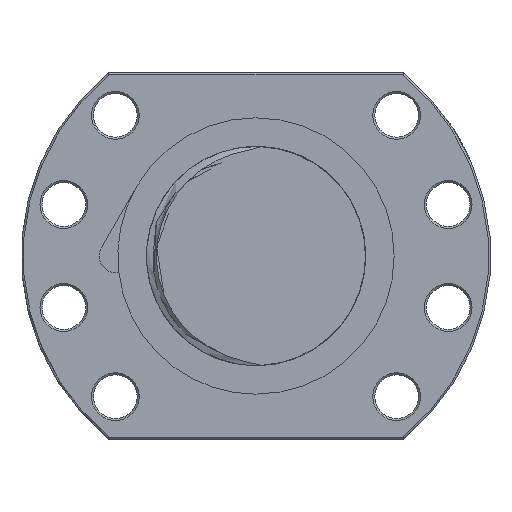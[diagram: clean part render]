
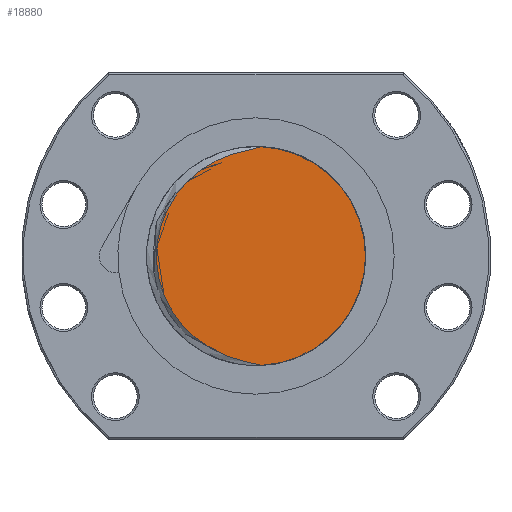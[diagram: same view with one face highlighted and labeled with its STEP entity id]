
A CAD part, left-side view. The second image highlights one B-rep face of the part: STEP entity #18880.
In plain terms, the highlighted planar face has unit normal (-1, 0, 0).
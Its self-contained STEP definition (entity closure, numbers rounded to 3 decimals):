
#2549 = PLANE ( 'NONE',  #2555 ) ;
#2550 = FACE_OUTER_BOUND ( 'NONE', #18881, .T. ) ;
#2552 = DIRECTION ( 'NONE',  ( 0., 0., -1. ) ) ;
#2553 = DIRECTION ( 'NONE',  ( 1., 0., 0. ) ) ;
#2554 = CARTESIAN_POINT ( 'NONE',  ( -156., 0., 0. ) ) ;
#2555 = AXIS2_PLACEMENT_3D ( 'NONE', #2554, #2553, #2552 ) ;
#9759 = VERTEX_POINT ( 'NONE', #17537 ) ;
#9761 = EDGE_CURVE ( 'NONE', #9759, #9879, #17483, .T. ) ;
#9879 = VERTEX_POINT ( 'NONE', #25336 ) ;
#17479 = DIRECTION ( 'NONE',  ( 0., 1., 0. ) ) ;
#17480 = DIRECTION ( 'NONE',  ( 1., 0., 0. ) ) ;
#17481 = CARTESIAN_POINT ( 'NONE',  ( -156., 0., 0. ) ) ;
#17482 = AXIS2_PLACEMENT_3D ( 'NONE', #17481, #17480, #17479 ) ;
#17483 = CIRCLE ( 'NONE', #17482, 27.5 ) ;
#17537 = CARTESIAN_POINT ( 'NONE',  ( -156., -1.5, 27.459 ) ) ;
#18880 = ADVANCED_FACE ( 'NONE', ( #2550 ), #2549, .F. ) ;
#18881 = EDGE_LOOP ( 'NONE', ( #18959, #18957 ) ) ;
#18957 = ORIENTED_EDGE ( 'NONE', *, *, #18958, .T. ) ;
#18958 = EDGE_CURVE ( 'NONE', #9759, #9879, #23698, .T. ) ;
#18959 = ORIENTED_EDGE ( 'NONE', *, *, #9761, .F. ) ;
#23590 = CARTESIAN_POINT ( 'NONE',  ( -156., 23.611, -8.541 ) ) ;
#23591 = CARTESIAN_POINT ( 'NONE',  ( -156., 24.122, -6.871 ) ) ;
#23592 = CARTESIAN_POINT ( 'NONE',  ( -156., 24.337, -6.016 ) ) ;
#23593 = CARTESIAN_POINT ( 'NONE',  ( -156., 24.85, -3.454 ) ) ;
#23594 = CARTESIAN_POINT ( 'NONE',  ( -156., 25.022, -1.731 ) ) ;
#23595 = CARTESIAN_POINT ( 'NONE',  ( -156., 25.024, 0.442 ) ) ;
#23596 = CARTESIAN_POINT ( 'NONE',  ( -156., 25.013, 0.877 ) ) ;
#23597 = CARTESIAN_POINT ( 'NONE',  ( -156., 24.97, 1.75 ) ) ;
#23598 = CARTESIAN_POINT ( 'NONE',  ( -156., 24.937, 2.189 ) ) ;
#23599 = CARTESIAN_POINT ( 'NONE',  ( -156., 24.806, 3.496 ) ) ;
#23600 = CARTESIAN_POINT ( 'NONE',  ( -156., 24.674, 4.356 ) ) ;
#23601 = CARTESIAN_POINT ( 'NONE',  ( -156., 24.156, 6.903 ) ) ;
#23602 = CARTESIAN_POINT ( 'NONE',  ( -156., 23.646, 8.559 ) ) ;
#23603 = CARTESIAN_POINT ( 'NONE',  ( -156., 22.802, 10.576 ) ) ;
#23604 = CARTESIAN_POINT ( 'NONE',  ( -156., 22.622, 10.977 ) ) ;
#23605 = CARTESIAN_POINT ( 'NONE',  ( -156., 22.245, 11.766 ) ) ;
#23606 = CARTESIAN_POINT ( 'NONE',  ( -156., 22.047, 12.155 ) ) ;
#23607 = CARTESIAN_POINT ( 'NONE',  ( -156., 21.427, 13.302 ) ) ;
#23608 = CARTESIAN_POINT ( 'NONE',  ( -156., 20.979, 14.042 ) ) ;
#23655 = CARTESIAN_POINT ( 'NONE',  ( -156., -1.514, -27.458 ) ) ;
#23656 = CARTESIAN_POINT ( 'NONE',  ( -156., -1.088, -27.352 ) ) ;
#23657 = CARTESIAN_POINT ( 'NONE',  ( -156., -0.658, -27.267 ) ) ;
#23658 = CARTESIAN_POINT ( 'NONE',  ( -156., 0.201, -27.096 ) ) ;
#23659 = CARTESIAN_POINT ( 'NONE',  ( -156., 0.632, -27.012 ) ) ;
#23660 = CARTESIAN_POINT ( 'NONE',  ( -156., 1.92, -26.748 ) ) ;
#23661 = CARTESIAN_POINT ( 'NONE',  ( -156., 2.775, -26.557 ) ) ;
#23662 = CARTESIAN_POINT ( 'NONE',  ( -156., 5.319, -25.889 ) ) ;
#23663 = CARTESIAN_POINT ( 'NONE',  ( -156., 6.973, -25.324 ) ) ;
#23664 = CARTESIAN_POINT ( 'NONE',  ( -156., 9.373, -24.262 ) ) ;
#23665 = CARTESIAN_POINT ( 'NONE',  ( -156., 10.161, -23.872 ) ) ;
#23666 = CARTESIAN_POINT ( 'NONE',  ( -156., 11.693, -23.027 ) ) ;
#23667 = CARTESIAN_POINT ( 'NONE',  ( -156., 12.438, -22.571 ) ) ;
#23668 = CARTESIAN_POINT ( 'NONE',  ( -156., 13.886, -21.591 ) ) ;
#23669 = CARTESIAN_POINT ( 'NONE',  ( -156., 14.591, -21.064 ) ) ;
#23670 = CARTESIAN_POINT ( 'NONE',  ( -156., 15.939, -19.954 ) ) ;
#23671 = CARTESIAN_POINT ( 'NONE',  ( -156., 16.581, -19.369 ) ) ;
#23672 = CARTESIAN_POINT ( 'NONE',  ( -156., 18.419, -17.531 ) ) ;
#23673 = CARTESIAN_POINT ( 'NONE',  ( -156., 19.524, -16.192 ) ) ;
#23674 = CARTESIAN_POINT ( 'NONE',  ( -156., 21.486, -13.28 ) ) ;
#23675 = CARTESIAN_POINT ( 'NONE',  ( -156., 22.312, -11.753 ) ) ;
#23676 = CARTESIAN_POINT ( 'NONE',  ( -156., 23.316, -9.357 ) ) ;
#23677 = CARTESIAN_POINT ( 'NONE',  ( -156., 20.011, 15.474 ) ) ;
#23678 = CARTESIAN_POINT ( 'NONE',  ( -156., 19.492, 16.166 ) ) ;
#23679 = CARTESIAN_POINT ( 'NONE',  ( -156., 18.386, 17.504 ) ) ;
#23680 = CARTESIAN_POINT ( 'NONE',  ( -156., 17.797, 18.15 ) ) ;
#23681 = CARTESIAN_POINT ( 'NONE',  ( -156., 15.935, 20.007 ) ) ;
#23682 = CARTESIAN_POINT ( 'NONE',  ( -156., 14.593, 21.113 ) ) ;
#23683 = CARTESIAN_POINT ( 'NONE',  ( -156., 12.432, 22.579 ) ) ;
#23684 = CARTESIAN_POINT ( 'NONE',  ( -156., 11.685, 23.037 ) ) ;
#23685 = CARTESIAN_POINT ( 'NONE',  ( -156., 10.15, 23.882 ) ) ;
#23686 = CARTESIAN_POINT ( 'NONE',  ( -156., 9.367, 24.267 ) ) ;
#23687 = CARTESIAN_POINT ( 'NONE',  ( -156., 7.773, 24.969 ) ) ;
#23688 = CARTESIAN_POINT ( 'NONE',  ( -156., 6.962, 25.285 ) ) ;
#23689 = CARTESIAN_POINT ( 'NONE',  ( -156., 5.314, 25.854 ) ) ;
#23690 = CARTESIAN_POINT ( 'NONE',  ( -156., 4.476, 26.106 ) ) ;
#23691 = CARTESIAN_POINT ( 'NONE',  ( -156., 2.782, 26.554 ) ) ;
#23692 = CARTESIAN_POINT ( 'NONE',  ( -156., 1.928, 26.747 ) ) ;
#23693 = CARTESIAN_POINT ( 'NONE',  ( -156., 0.642, 27.013 ) ) ;
#23694 = CARTESIAN_POINT ( 'NONE',  ( -156., 0.212, 27.097 ) ) ;
#23695 = CARTESIAN_POINT ( 'NONE',  ( -156., -0.646, 27.269 ) ) ;
#23696 = CARTESIAN_POINT ( 'NONE',  ( -156., -1.076, 27.354 ) ) ;
#23697 = CARTESIAN_POINT ( 'NONE',  ( -156., -1.5, 27.459 ) ) ;
#23698 = B_SPLINE_CURVE_WITH_KNOTS ( 'NONE', 3,
 ( #23697, #23696, #23695, #23694, #23693, #23692, #23691, #23690, #23689, #23688, #23687, #23686, #23685, #23684, #23683, #23682, #23681, #23680, #23679, #23678, #23677, #23608, #23607, #23606, #23605, #23604, #23603, #23602, #23601, #23600, #23599, #23598, #23597, #23596, #23595, #23594, #23593, #23592, #23591, #23590, #23676, #23675, #23674, #23673, #23672, #23671, #23670, #23669, #23668, #23667, #23666, #23665, #23664, #23663, #23662, #23661, #23660, #23659, #23658, #23657, #23656, #23655 ),
 .UNSPECIFIED., .F., .F.,
 ( 4, 2, 2, 2, 2, 2, 2, 2, 2, 2, 2, 2, 2, 2, 2, 2, 2, 2, 2, 2, 2, 2, 2, 2, 2, 2, 2, 2, 2, 2, 4 ),
 ( 0.001, 0.002, 0.004, 0.006, 0.009, 0.012, 0.014, 0.017, 0.022, 0.025, 0.027, 0.03, 0.031, 0.032, 0.038, 0.04, 0.042, 0.043, 0.048, 0.051, 0.053, 0.059, 0.064, 0.066, 0.069, 0.072, 0.074, 0.079, 0.082, 0.083, 0.085 ),
 .UNSPECIFIED. ) ;
#25336 = CARTESIAN_POINT ( 'NONE',  ( -156., -1.514, -27.458 ) ) ;
